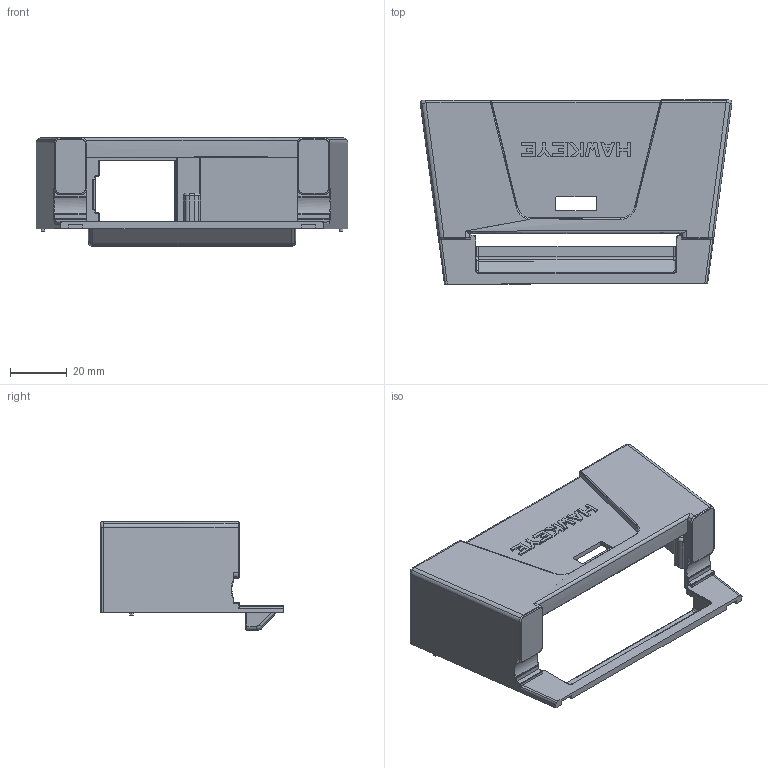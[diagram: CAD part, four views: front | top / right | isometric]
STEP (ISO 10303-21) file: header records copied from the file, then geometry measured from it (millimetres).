
FILE_DESCRIPTION(('STEP AP214'),'1');
FILE_NAME('Bottom Cover Door v20.stp','2020-05-16T13:54:34',(' '),(' '),'Spatial InterOp 3D',' ',' ');
FILE_SCHEMA(('AUTOMOTIVE_DESIGN { 1 0 10303 214 1 1 1 1 }'));
Length unit declared in the file: metre
Products named in the file (1): Corps1
Bounding box: 109.71 x 64.74 x 38.25 mm (x, y, z)
Volume: 31845 mm3; surface area: 28840.9 mm2
Topology: 1 solids, 1 shells, 563 faces, 1498 edges, 949 vertices
Faces by surface type: cylinder 279, plane 193, bspline 42, torus 41, sphere 8
Entity records: 27706 total; most frequent: CARTESIAN_POINT 13504, DIRECTION 3041, ORIENTED_EDGE 2988, EDGE_CURVE 1494, AXIS2_PLACEMENT_3D 1124, VERTEX_POINT 949, LINE 793, VECTOR 793
